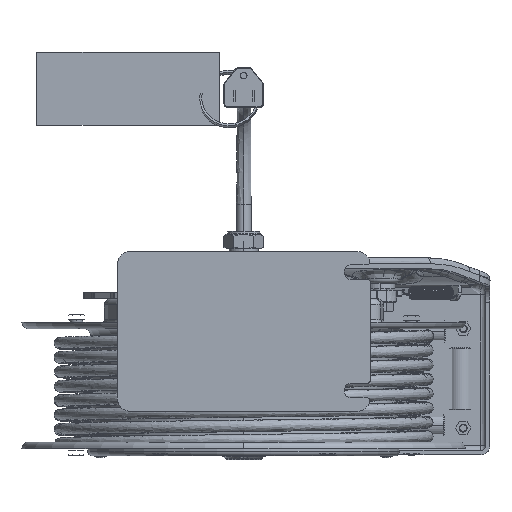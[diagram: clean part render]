
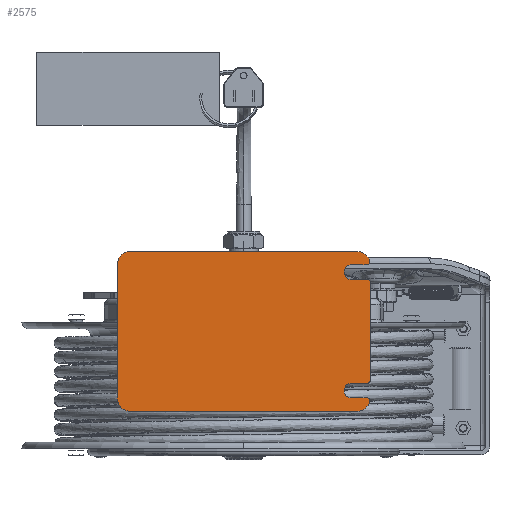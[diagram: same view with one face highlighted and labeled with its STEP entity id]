
A CAD part, front view. The second image highlights one B-rep face of the part: STEP entity #2575.
In plain terms, the highlighted planar face has unit normal (0, -1, 0).
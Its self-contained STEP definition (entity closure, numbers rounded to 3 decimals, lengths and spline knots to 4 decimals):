
#83=CARTESIAN_POINT('',(3.3465,-0.1654,-1.9685));
#84=DIRECTION('',(0.,-1.,0.));
#85=DIRECTION('',(0.,0.,-1.));
#86=AXIS2_PLACEMENT_3D('',#83,#84,#85);
#88=DIRECTION('',(-1.,0.,0.));
#89=VECTOR('',#88,6.6929);
#90=CARTESIAN_POINT('',(3.3465,-0.1654,-2.3622));
#91=LINE('',#90,#89);
#92=CARTESIAN_POINT('',(-3.3465,-0.1654,
-1.9685));
#93=DIRECTION('',(0.,-1.,0.));
#94=DIRECTION('',(-1.,0.,0.));
#95=AXIS2_PLACEMENT_3D('',#92,#93,#94);
#97=DIRECTION('',(0.,0.,1.));
#98=VECTOR('',#97,3.937);
#99=CARTESIAN_POINT('',(-3.7402,-0.1654,
-1.9685));
#100=LINE('',#99,#98);
#101=CARTESIAN_POINT('',(-3.3465,-0.1654,
1.9685));
#102=DIRECTION('',(0.,-1.,0.));
#103=DIRECTION('',(0.,0.,1.));
#104=AXIS2_PLACEMENT_3D('',#101,#102,#103);
#106=DIRECTION('',(1.,0.,0.));
#107=VECTOR('',#106,6.6929);
#108=CARTESIAN_POINT('',(-3.3465,-0.1654,
2.3622));
#109=LINE('',#108,#107);
#110=CARTESIAN_POINT('',(3.3465,-0.1654,1.9685));
#111=DIRECTION('',(0.,-1.,0.));
#112=DIRECTION('',(0.97,0.,0.244));
#113=AXIS2_PLACEMENT_3D('',#110,#111,#112);
#115=CARTESIAN_POINT('',(3.6519,-0.1654,2.0453));
#116=DIRECTION('',(0.,1.,0.));
#117=DIRECTION('',(0.97,0.,0.244));
#118=AXIS2_PLACEMENT_3D('',#115,#116,#117);
#120=DIRECTION('',(-1.,0.,0.));
#121=VECTOR('',#120,0.4643);
#122=CARTESIAN_POINT('',(3.6519,-0.1654,1.9665));
#123=LINE('',#122,#121);
#124=CARTESIAN_POINT('',(3.1876,-0.1654,1.75));
#125=DIRECTION('',(0.,1.,0.));
#126=DIRECTION('',(0.,0.,-1.));
#127=AXIS2_PLACEMENT_3D('',#124,#125,#126);
#129=DIRECTION('',(-1.,0.,0.));
#130=VECTOR('',#129,0.4738);
#131=CARTESIAN_POINT('',(3.6614,-0.1654,1.5335));
#132=LINE('',#131,#130);
#133=CARTESIAN_POINT('',(3.6614,-0.1654,1.4547));
#134=DIRECTION('',(0.,1.,0.));
#135=DIRECTION('',(0.,0.,1.));
#136=AXIS2_PLACEMENT_3D('',#133,#134,#135);
#138=DIRECTION('',(0.,0.,-1.));
#139=VECTOR('',#138,2.9094);
#140=CARTESIAN_POINT('',(3.7402,-0.1654,1.4547));
#141=LINE('',#140,#139);
#142=CARTESIAN_POINT('',(3.6614,-0.1654,
-1.4547));
#143=DIRECTION('',(0.,1.,0.));
#144=DIRECTION('',(1.,0.,0.));
#145=AXIS2_PLACEMENT_3D('',#142,#143,#144);
#147=DIRECTION('',(-1.,0.,0.));
#148=VECTOR('',#147,0.4738);
#149=CARTESIAN_POINT('',(3.6614,-0.1654,
-1.5335));
#150=LINE('',#149,#148);
#151=CARTESIAN_POINT('',(3.1876,-0.1654,-1.75));
#152=DIRECTION('',(0.,1.,0.));
#153=DIRECTION('',(0.,0.,-1.));
#154=AXIS2_PLACEMENT_3D('',#151,#152,#153);
#156=DIRECTION('',(-1.,0.,0.));
#157=VECTOR('',#156,0.4643);
#158=CARTESIAN_POINT('',(3.6519,-0.1654,
-1.9665));
#159=LINE('',#158,#157);
#160=CARTESIAN_POINT('',(3.6519,-0.1654,
-2.0453));
#161=DIRECTION('',(0.,1.,0.));
#162=DIRECTION('',(0.,0.,1.));
#163=AXIS2_PLACEMENT_3D('',#160,#161,#162);
#2174=CARTESIAN_POINT('',(3.3465,-0.1654,
-2.3622));
#2176=VERTEX_POINT('',#2174);
#2178=CARTESIAN_POINT('',(3.3465,-0.1654,
2.3622));
#2180=VERTEX_POINT('',#2178);
#2186=CARTESIAN_POINT('',(-3.3465,-0.1654,
2.3622));
#2187=VERTEX_POINT('',#2186);
#2188=CARTESIAN_POINT('',(-3.7402,-0.1654,
1.9685));
#2189=VERTEX_POINT('',#2188);
#2194=CARTESIAN_POINT('',(-3.7402,-0.1654,
-1.9685));
#2195=VERTEX_POINT('',#2194);
#2196=CARTESIAN_POINT('',(-3.3465,-0.1654,
-2.3622));
#2197=VERTEX_POINT('',#2196);
#2264=CARTESIAN_POINT('',(3.7283,-0.1654,
-2.0645));
#2265=VERTEX_POINT('',#2264);
#2426=CARTESIAN_POINT('',(3.7283,-0.1654,
2.0645));
#2427=VERTEX_POINT('',#2426);
#2432=CARTESIAN_POINT('',(3.1876,-0.1654,
1.5335));
#2433=CARTESIAN_POINT('',(3.1876,-0.1654,
1.9665));
#2434=VERTEX_POINT('',#2432);
#2435=VERTEX_POINT('',#2433);
#2436=CARTESIAN_POINT('',(3.1876,-0.1654,
-1.9665));
#2437=CARTESIAN_POINT('',(3.1876,-0.1654,
-1.5335));
#2438=VERTEX_POINT('',#2436);
#2439=VERTEX_POINT('',#2437);
#2440=CARTESIAN_POINT('',(3.6519,-0.1654,
-1.9665));
#2441=VERTEX_POINT('',#2440);
#2442=CARTESIAN_POINT('',(3.6614,-0.1654,
-1.5335));
#2443=VERTEX_POINT('',#2442);
#2444=CARTESIAN_POINT('',(3.7402,-0.1654,
-1.4547));
#2445=VERTEX_POINT('',#2444);
#2446=CARTESIAN_POINT('',(3.7402,-0.1654,
1.4547));
#2447=CARTESIAN_POINT('',(3.6614,-0.1654,
1.5335));
#2448=VERTEX_POINT('',#2446);
#2449=VERTEX_POINT('',#2447);
#2450=CARTESIAN_POINT('',(3.6519,-0.1654,
1.9665));
#2451=VERTEX_POINT('',#2450);
#2532=CARTESIAN_POINT('',(0.,-0.1654,0.));
#2533=DIRECTION('',(0.,1.,0.));
#2534=DIRECTION('',(1.,0.,0.));
#2535=AXIS2_PLACEMENT_3D('',#2532,#2533,#2534);
#2536=PLANE('',#2535);
#2538=ORIENTED_EDGE('',*,*,#2537,.F.);
#2540=ORIENTED_EDGE('',*,*,#2539,.T.);
#2542=ORIENTED_EDGE('',*,*,#2541,.F.);
#2544=ORIENTED_EDGE('',*,*,#2543,.T.);
#2546=ORIENTED_EDGE('',*,*,#2545,.F.);
#2548=ORIENTED_EDGE('',*,*,#2547,.T.);
#2550=ORIENTED_EDGE('',*,*,#2549,.F.);
#2552=ORIENTED_EDGE('',*,*,#2551,.T.);
#2554=ORIENTED_EDGE('',*,*,#2553,.T.);
#2556=ORIENTED_EDGE('',*,*,#2555,.F.);
#2558=ORIENTED_EDGE('',*,*,#2557,.F.);
#2560=ORIENTED_EDGE('',*,*,#2559,.T.);
#2562=ORIENTED_EDGE('',*,*,#2561,.T.);
#2564=ORIENTED_EDGE('',*,*,#2563,.T.);
#2566=ORIENTED_EDGE('',*,*,#2565,.T.);
#2568=ORIENTED_EDGE('',*,*,#2567,.F.);
#2570=ORIENTED_EDGE('',*,*,#2569,.F.);
#2572=ORIENTED_EDGE('',*,*,#2571,.T.);
#2573=EDGE_LOOP('',(#2538,#2540,#2542,#2544,#2546,#2548,#2550,#2552,#2554,#2556,
#2558,#2560,#2562,#2564,#2566,#2568,#2570,#2572));
#2574=FACE_OUTER_BOUND('',#2573,.F.);
#2575=ADVANCED_FACE('',(#2574),#2536,.F.);
#87=CIRCLE('',#86,0.3937);
#96=CIRCLE('',#95,0.3937);
#105=CIRCLE('',#104,0.3937);
#114=CIRCLE('',#113,0.3937);
#119=CIRCLE('',#118,0.0787);
#128=CIRCLE('',#127,0.2165);
#137=CIRCLE('',#136,0.0787);
#146=CIRCLE('',#145,0.0787);
#155=CIRCLE('',#154,0.2165);
#164=CIRCLE('',#163,0.0787);
#2537=EDGE_CURVE('',#2176,#2265,#87,.T.);
#2539=EDGE_CURVE('',#2176,#2197,#91,.T.);
#2541=EDGE_CURVE('',#2195,#2197,#96,.T.);
#2543=EDGE_CURVE('',#2195,#2189,#100,.T.);
#2545=EDGE_CURVE('',#2187,#2189,#105,.T.);
#2547=EDGE_CURVE('',#2187,#2180,#109,.T.);
#2549=EDGE_CURVE('',#2427,#2180,#114,.T.);
#2551=EDGE_CURVE('',#2427,#2451,#119,.T.);
#2553=EDGE_CURVE('',#2451,#2435,#123,.T.);
#2555=EDGE_CURVE('',#2434,#2435,#128,.T.);
#2557=EDGE_CURVE('',#2449,#2434,#132,.T.);
#2559=EDGE_CURVE('',#2449,#2448,#137,.T.);
#2561=EDGE_CURVE('',#2448,#2445,#141,.T.);
#2563=EDGE_CURVE('',#2445,#2443,#146,.T.);
#2565=EDGE_CURVE('',#2443,#2439,#150,.T.);
#2567=EDGE_CURVE('',#2438,#2439,#155,.T.);
#2569=EDGE_CURVE('',#2441,#2438,#159,.T.);
#2571=EDGE_CURVE('',#2441,#2265,#164,.T.);
